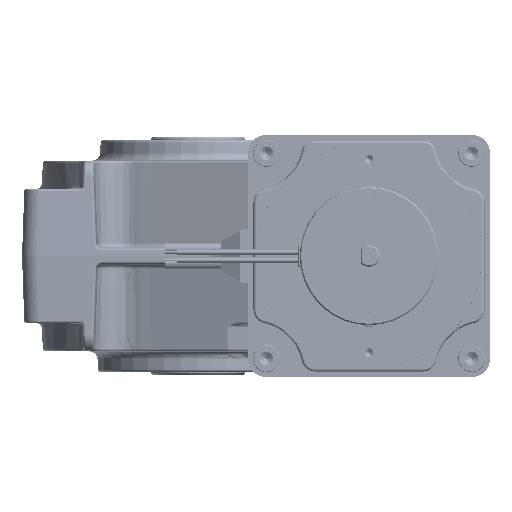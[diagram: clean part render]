
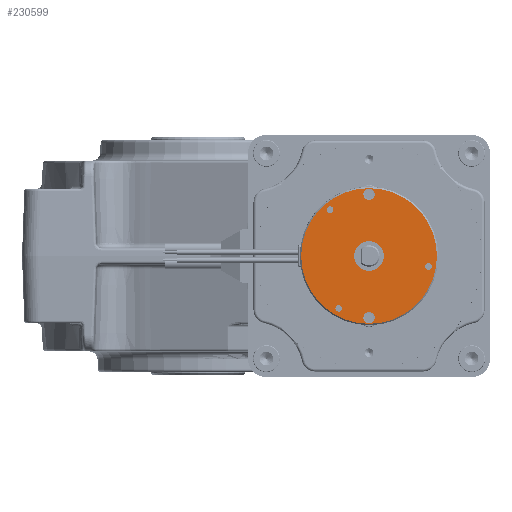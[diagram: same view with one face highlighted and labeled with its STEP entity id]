
A CAD part, left-side view. The second image highlights one B-rep face of the part: STEP entity #230599.
In plain terms, the highlighted planar face has unit normal (-1, 0, 0).
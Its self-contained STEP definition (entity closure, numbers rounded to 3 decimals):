
#3080 = CIRCLE ( 'NONE', #177741, 5.5 ) ;
#3390 = DIRECTION ( 'NONE',  ( 0., -0.5, 0.866 ) ) ;
#4850 = AXIS2_PLACEMENT_3D ( 'NONE', #253391, #209607, #204967 ) ;
#7962 = VERTEX_POINT ( 'NONE', #141251 ) ;
#8051 = DIRECTION ( 'NONE',  ( 0., -0.5, 0.866 ) ) ;
#8297 = AXIS2_PLACEMENT_3D ( 'NONE', #173543, #147067, #218967 ) ;
#12321 = CARTESIAN_POINT ( 'NONE',  ( -315.959, -25.341, 32.639 ) ) ;
#13163 = CARTESIAN_POINT ( 'NONE',  ( -315.959, -29.141, 62.22 ) ) ;
#15188 = FACE_BOUND ( 'NONE', #254018, .T. ) ;
#17542 = DIRECTION ( 'NONE',  ( 0., -0.5, 0.866 ) ) ;
#18326 = FACE_BOUND ( 'NONE', #68790, .T. ) ;
#18498 = CARTESIAN_POINT ( 'NONE',  ( -315.959, -28.091, 37.402 ) ) ;
#18850 = EDGE_CURVE ( 'NONE', #97232, #69193, #191952, .T. ) ;
#20780 = CARTESIAN_POINT ( 'NONE',  ( -315.959, -28.091, 37.402 ) ) ;
#22313 = CARTESIAN_POINT ( 'NONE',  ( -315.959, -14.243, 55.702 ) ) ;
#23320 = ORIENTED_EDGE ( 'NONE', *, *, #70851, .T. ) ;
#30610 = ORIENTED_EDGE ( 'NONE', *, *, #83091, .T. ) ;
#35883 = CARTESIAN_POINT ( 'NONE',  ( -315.959, -13.628, 54.638 ) ) ;
#38568 = ORIENTED_EDGE ( 'NONE', *, *, #92874, .T. ) ;
#39819 = CIRCLE ( 'NONE', #79771, 1.23 ) ;
#41644 = FACE_OUTER_BOUND ( 'NONE', #121347, .T. ) ;
#41816 = DIRECTION ( 'NONE',  ( 0., -0.5, 0.866 ) ) ;
#42755 = DIRECTION ( 'NONE',  ( 1., 0., 0. ) ) ;
#47232 = CIRCLE ( 'NONE', #137175, 1.23 ) ;
#47833 = DIRECTION ( 'NONE',  ( 0., -0.5, 0.866 ) ) ;
#52557 = AXIS2_PLACEMENT_3D ( 'NONE', #35883, #292414, #245456 ) ;
#53414 = DIRECTION ( 'NONE',  ( 1., 0., 0. ) ) ;
#53538 = VERTEX_POINT ( 'NONE', #100592 ) ;
#56813 = EDGE_CURVE ( 'NONE', #190950, #211268, #237836, .T. ) ;
#63614 = ORIENTED_EDGE ( 'NONE', *, *, #56813, .T. ) ;
#68790 = EDGE_LOOP ( 'NONE', ( #72468, #74418 ) ) ;
#69135 = DIRECTION ( 'NONE',  ( 1., 0., 0. ) ) ;
#69193 = VERTEX_POINT ( 'NONE', #249003 ) ;
#70354 = VERTEX_POINT ( 'NONE', #235011 ) ;
#70851 = EDGE_CURVE ( 'NONE', #69193, #97232, #184055, .T. ) ;
#71684 = ORIENTED_EDGE ( 'NONE', *, *, #143748, .T. ) ;
#72468 = ORIENTED_EDGE ( 'NONE', *, *, #165791, .T. ) ;
#72820 = FACE_BOUND ( 'NONE', #154537, .T. ) ;
#73139 = CARTESIAN_POINT ( 'NONE',  ( -315.959, -40.716, 59.269 ) ) ;
#74418 = ORIENTED_EDGE ( 'NONE', *, *, #116652, .T. ) ;
#79771 = AXIS2_PLACEMENT_3D ( 'NONE', #197159, #291007, #79939 ) ;
#79939 = DIRECTION ( 'NONE',  ( 0., -0.5, 0.866 ) ) ;
#82712 = AXIS2_PLACEMENT_3D ( 'NONE', #90969, #256593, #17542 ) ;
#83091 = EDGE_CURVE ( 'NONE', #211571, #211593, #267206, .T. ) ;
#83190 = CARTESIAN_POINT ( 'NONE',  ( -315.959, -13.628, 54.638 ) ) ;
#85813 = CARTESIAN_POINT ( 'NONE',  ( -315.959, -28.091, 60.402 ) ) ;
#90009 = CARTESIAN_POINT ( 'NONE',  ( -315.959, -16.226, 16.851 ) ) ;
#90763 = CARTESIAN_POINT ( 'NONE',  ( -315.959, -30.841, 42.165 ) ) ;
#90969 = CARTESIAN_POINT ( 'NONE',  ( -315.959, -16.841, 17.916 ) ) ;
#90997 = EDGE_CURVE ( 'NONE', #211268, #190950, #177468, .T. ) ;
#92874 = EDGE_CURVE ( 'NONE', #284115, #53538, #103469, .T. ) ;
#97232 = VERTEX_POINT ( 'NONE', #73139 ) ;
#100592 = CARTESIAN_POINT ( 'NONE',  ( -315.959, -27.041, 12.583 ) ) ;
#100685 = VERTEX_POINT ( 'NONE', #12321 ) ;
#103469 = CIRCLE ( 'NONE', #223210, 2.1 ) ;
#106250 = VERTEX_POINT ( 'NONE', #90763 ) ;
#106947 = EDGE_CURVE ( 'NONE', #100685, #106250, #298805, .T. ) ;
#113897 = ORIENTED_EDGE ( 'NONE', *, *, #90997, .T. ) ;
#116652 = EDGE_CURVE ( 'NONE', #7962, #135622, #214634, .T. ) ;
#119194 = CARTESIAN_POINT ( 'NONE',  ( -315.959, -28.091, 37.402 ) ) ;
#120381 = CIRCLE ( 'NONE', #199505, 1.23 ) ;
#121347 = EDGE_LOOP ( 'NONE', ( #173169, #23320 ) ) ;
#122819 = CARTESIAN_POINT ( 'NONE',  ( -315.959, -30.841, 42.165 ) ) ;
#126014 = ORIENTED_EDGE ( 'NONE', *, *, #106947, .T. ) ;
#127764 = CARTESIAN_POINT ( 'NONE',  ( -315.959, -29.141, 16.22 ) ) ;
#135622 = VERTEX_POINT ( 'NONE', #13163 ) ;
#137175 = AXIS2_PLACEMENT_3D ( 'NONE', #83190, #201966, #300427 ) ;
#141251 = CARTESIAN_POINT ( 'NONE',  ( -315.959, -27.041, 58.583 ) ) ;
#141627 = PLANE ( 'NONE',  #290182 ) ;
#142292 = VERTEX_POINT ( 'NONE', #145993 ) ;
#143748 = EDGE_CURVE ( 'NONE', #142292, #70354, #39819, .T. ) ;
#145599 = EDGE_LOOP ( 'NONE', ( #71684, #214395 ) ) ;
#145993 = CARTESIAN_POINT ( 'NONE',  ( -315.959, -50.864, 34.559 ) ) ;
#147067 = DIRECTION ( 'NONE',  ( 1., 0., 0. ) ) ;
#148794 = DIRECTION ( 'NONE',  ( 0., -0.5, 0.866 ) ) ;
#153244 = DIRECTION ( 'NONE',  ( 1., 0., 0. ) ) ;
#154537 = EDGE_LOOP ( 'NONE', ( #38568, #218584 ) ) ;
#154775 = DIRECTION ( 'NONE',  ( 0., -0.5, 0.866 ) ) ;
#158855 = AXIS2_PLACEMENT_3D ( 'NONE', #119194, #53414, #148794 ) ;
#159496 = CIRCLE ( 'NONE', #4850, 2.1 ) ;
#160000 = DIRECTION ( 'NONE',  ( 0., -0.5, 0.866 ) ) ;
#160748 = DIRECTION ( 'NONE',  ( 1., 0., 0. ) ) ;
#165791 = EDGE_CURVE ( 'NONE', #135622, #7962, #248474, .T. ) ;
#173169 = ORIENTED_EDGE ( 'NONE', *, *, #18850, .T. ) ;
#173543 = CARTESIAN_POINT ( 'NONE',  ( -315.959, -16.841, 17.916 ) ) ;
#177468 = CIRCLE ( 'NONE', #82712, 1.229 ) ;
#177741 = AXIS2_PLACEMENT_3D ( 'NONE', #20780, #69135, #3390 ) ;
#183438 = CARTESIAN_POINT ( 'NONE',  ( -315.959, -50.249, 33.495 ) ) ;
#183547 = AXIS2_PLACEMENT_3D ( 'NONE', #85813, #160748, #273350 ) ;
#183888 = FACE_BOUND ( 'NONE', #231241, .T. ) ;
#184055 = CIRCLE ( 'NONE', #308852, 25.25 ) ;
#184286 = DIRECTION ( 'NONE',  ( 0., -0.5, 0.866 ) ) ;
#187150 = EDGE_LOOP ( 'NONE', ( #253165, #30610 ) ) ;
#190950 = VERTEX_POINT ( 'NONE', #201634 ) ;
#191952 = CIRCLE ( 'NONE', #291746, 25.25 ) ;
#197159 = CARTESIAN_POINT ( 'NONE',  ( -315.959, -50.249, 33.495 ) ) ;
#198667 = DIRECTION ( 'NONE',  ( 1., 0., 0. ) ) ;
#199505 = AXIS2_PLACEMENT_3D ( 'NONE', #183438, #42755, #160000 ) ;
#201634 = CARTESIAN_POINT ( 'NONE',  ( -315.959, -17.455, 18.981 ) ) ;
#201966 = DIRECTION ( 'NONE',  ( 1., 0., 0. ) ) ;
#204967 = DIRECTION ( 'NONE',  ( 0., -0.5, 0.866 ) ) ;
#209607 = DIRECTION ( 'NONE',  ( 1., 0., 0. ) ) ;
#210622 = DIRECTION ( 'NONE',  ( -1., 0., 0. ) ) ;
#210715 = EDGE_CURVE ( 'NONE', #106250, #100685, #3080, .T. ) ;
#211268 = VERTEX_POINT ( 'NONE', #90009 ) ;
#211571 = VERTEX_POINT ( 'NONE', #216015 ) ;
#211593 = VERTEX_POINT ( 'NONE', #22313 ) ;
#212405 = DIRECTION ( 'NONE',  ( -1., 0., 0. ) ) ;
#214395 = ORIENTED_EDGE ( 'NONE', *, *, #215408, .T. ) ;
#214634 = CIRCLE ( 'NONE', #224676, 2.1 ) ;
#215408 = EDGE_CURVE ( 'NONE', #70354, #142292, #120381, .T. ) ;
#216015 = CARTESIAN_POINT ( 'NONE',  ( -315.959, -13.013, 53.573 ) ) ;
#218584 = ORIENTED_EDGE ( 'NONE', *, *, #304257, .T. ) ;
#218967 = DIRECTION ( 'NONE',  ( 0., -0.5, 0.866 ) ) ;
#223210 = AXIS2_PLACEMENT_3D ( 'NONE', #226654, #153244, #154775 ) ;
#224676 = AXIS2_PLACEMENT_3D ( 'NONE', #270560, #198667, #8051 ) ;
#226654 = CARTESIAN_POINT ( 'NONE',  ( -315.959, -28.091, 14.402 ) ) ;
#230599 = ADVANCED_FACE ( 'NONE', ( #15188, #183888, #301188, #255794, #41644, #18326, #72820 ), #141627, .F. ) ;
#231210 = CARTESIAN_POINT ( 'NONE',  ( -315.959, -28.091, 37.402 ) ) ;
#231241 = EDGE_LOOP ( 'NONE', ( #63614, #113897 ) ) ;
#235011 = CARTESIAN_POINT ( 'NONE',  ( -315.959, -49.634, 32.43 ) ) ;
#236957 = DIRECTION ( 'NONE',  ( 1., 0., 0. ) ) ;
#237836 = CIRCLE ( 'NONE', #8297, 1.229 ) ;
#245456 = DIRECTION ( 'NONE',  ( 0., -0.5, 0.866 ) ) ;
#248474 = CIRCLE ( 'NONE', #183547, 2.1 ) ;
#249003 = CARTESIAN_POINT ( 'NONE',  ( -315.959, -15.466, 15.535 ) ) ;
#253165 = ORIENTED_EDGE ( 'NONE', *, *, #272635, .T. ) ;
#253391 = CARTESIAN_POINT ( 'NONE',  ( -315.959, -28.091, 14.402 ) ) ;
#254018 = EDGE_LOOP ( 'NONE', ( #307050, #126014 ) ) ;
#255794 = FACE_BOUND ( 'NONE', #187150, .T. ) ;
#256593 = DIRECTION ( 'NONE',  ( 1., 0., 0. ) ) ;
#267206 = CIRCLE ( 'NONE', #52557, 1.23 ) ;
#270560 = CARTESIAN_POINT ( 'NONE',  ( -315.959, -28.091, 60.402 ) ) ;
#272635 = EDGE_CURVE ( 'NONE', #211593, #211571, #47232, .T. ) ;
#273350 = DIRECTION ( 'NONE',  ( 0., -0.5, 0.866 ) ) ;
#284115 = VERTEX_POINT ( 'NONE', #127764 ) ;
#290182 = AXIS2_PLACEMENT_3D ( 'NONE', #122819, #236957, #47833 ) ;
#291007 = DIRECTION ( 'NONE',  ( 1., 0., 0. ) ) ;
#291746 = AXIS2_PLACEMENT_3D ( 'NONE', #18498, #210622, #41816 ) ;
#292414 = DIRECTION ( 'NONE',  ( 1., 0., 0. ) ) ;
#298805 = CIRCLE ( 'NONE', #158855, 5.5 ) ;
#300427 = DIRECTION ( 'NONE',  ( 0., -0.5, 0.866 ) ) ;
#301188 = FACE_BOUND ( 'NONE', #145599, .T. ) ;
#304257 = EDGE_CURVE ( 'NONE', #53538, #284115, #159496, .T. ) ;
#307050 = ORIENTED_EDGE ( 'NONE', *, *, #210715, .T. ) ;
#308852 = AXIS2_PLACEMENT_3D ( 'NONE', #231210, #212405, #184286 ) ;
